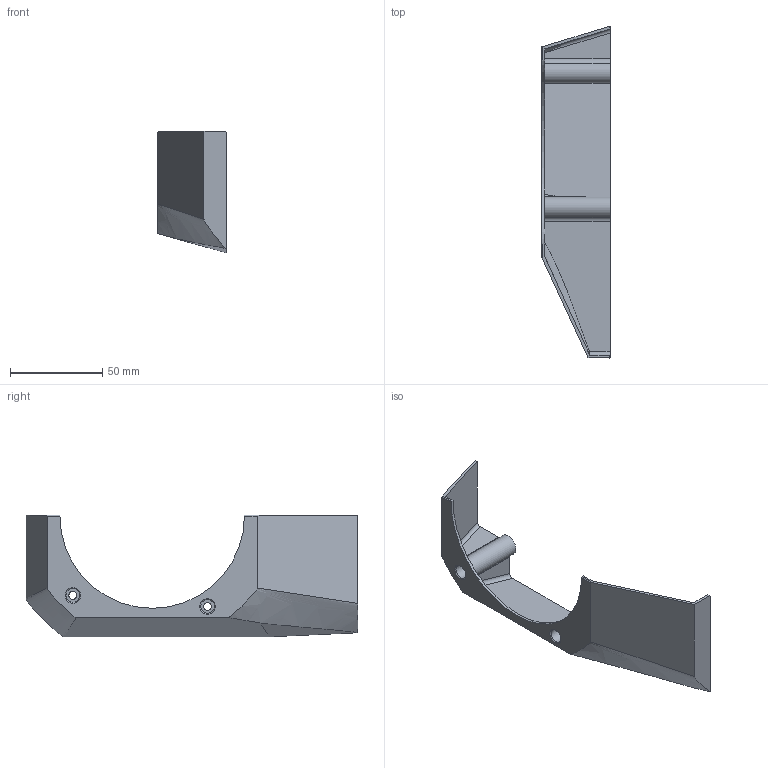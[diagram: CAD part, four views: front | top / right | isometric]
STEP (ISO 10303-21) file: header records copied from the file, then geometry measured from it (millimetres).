
FILE_DESCRIPTION(/* description */ ('STEP AP242 Edition 2','CAx-IF Rec.Pracs.---Representation and Presentation of Product Manufacturing Information (PMI)---4.0---2014-10-13','CAx-IF Rec.Pracs.---3D Tessellated Geometry---0.4---2014-09-14','2;1','CAx-IF Rec.Pracs.---User Defined Attributes---1.5---2016-08-15'),/* implementation_level */ '2;1');
FILE_NAME(/* name */ 'Assy_ForMFG - KD-B-105L_SHDR_COVER_B',/* time_stamp */ '2026-05-15T19:56:26Z',/* author */ (''),/* organization */ (''),/* preprocessor_version */ 'ST-DEVELOPER v20',/* originating_system */ 'ONSHAPE BY PTC INC, 1.215',/* authorisation */ ' ');
FILE_SCHEMA (('AP242_MANAGED_MODEL_BASED_3D_ENGINEERING_MIM_LF { 1 0 10303 442 3 1 4 }'));
Length unit declared in the file: metre
Products named in the file (1): KD-B-105L_SHDR_COVER_B
Bounding box: 37 x 179.84 x 65.89 mm (x, y, z)
Volume: 30680.3 mm3; surface area: 36601.6 mm2
Topology: 1 solids, 1 shells, 74 faces, 199 edges, 131 vertices
Faces by surface type: plane 36, cylinder 24, bspline 12, cone 2
Full cylindrical faces by diameter (mm): 4.3 x2, 7.5 x2
Entity records: 4209 total; most frequent: CARTESIAN_POINT 2444, ORIENTED_EDGE 382, DIRECTION 319, EDGE_CURVE 191, VERTEX_POINT 129, AXIS2_PLACEMENT_3D 110, LINE 99, VECTOR 99
